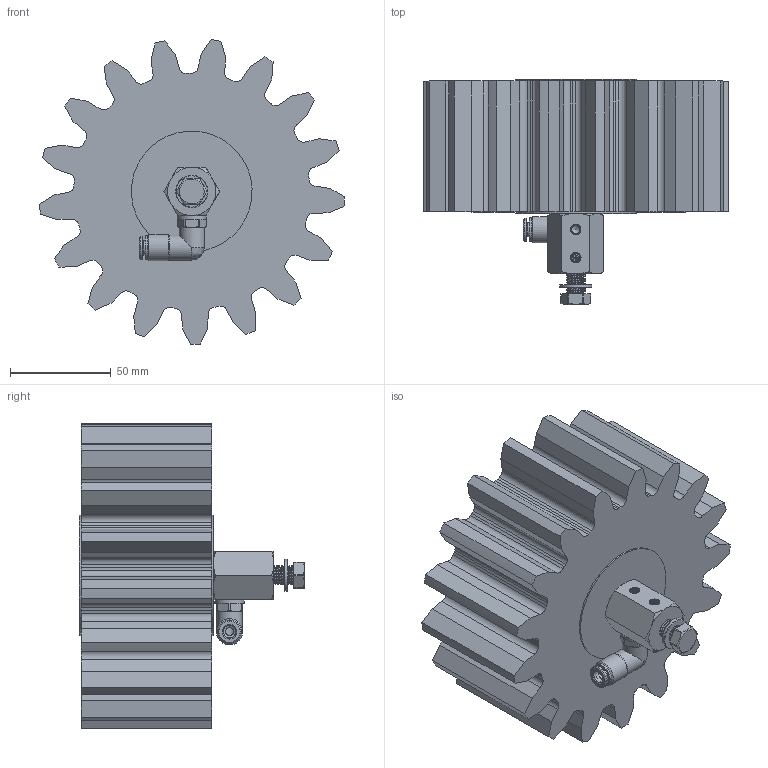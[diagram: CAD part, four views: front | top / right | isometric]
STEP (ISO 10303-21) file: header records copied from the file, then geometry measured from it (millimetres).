
FILE_DESCRIPTION (( 'STEP AP214' ), '1' );
FILE_NAME ('012_13_08_65_17BZ.STEP', '2026-04-08T10:26:29', ( '' ), ( '' ), 'SwSTEP 2.0', 'SolidWorks 2022', '' );
FILE_SCHEMA (( 'AUTOMOTIVE_DESIGN' ));
Length unit declared in the file: millimetre
Products named in the file (13): Scheibe_hinten_winklige Achse_groß; 12012_06_01_Scheibe-CRS-VA_60.SLDASM; H202242_HDS022_6_M10X1_08.05.17(1); 012_06_Senkschraube; U_Scheibe_8,4; Schmierzahnrad_08_65_17G; 012_13b_02_winklige_Achse_M10_1; RIVOLUZIONE_0_2; DR6-C_HDX_25.07.16_1; Schraube_M8_20; OR 7.2X1.9_1; RH202242; 012_13_08_65_17BZ
Assembly tree (12 placements, depth 3):
  012_13_08_65_17BZ
    012_13b_02_winklige_Achse_M10_1
    Schraube_M8_20
    U_Scheibe_8,4
    H202242_HDS022_6_M10X1_08.05.17(1)
      OR 7.2X1.9_1
      RH202242
      DR6-C_HDX_25.07.16_1
      RIVOLUZIONE_0_2
    12012_06_01_Scheibe-CRS-VA_60.SLDASM
    Scheibe_hinten_winklige Achse_groß
    012_06_Senkschraube
    Schmierzahnrad_08_65_17G
Bounding box: 151.68 x 111.9 x 151.38 mm (x, y, z)
Volume: 942812.7 mm3; surface area: 104939.6 mm2
Topology: 11 solids, 11 shells, 729 faces, 1985 edges, 1315 vertices
Faces by surface type: plane 379, bspline 184, cylinder 106, cone 57, torus 3
Full cylindrical faces by diameter (mm): 4 x3, 6 x1, 6.2 x1, 6.3 x1, 6.5 x1, 6.6 x1, 7.2 x1, 8.4 x1, 8.5 x1, 9 x10, 9.9 x1, 10 x2, 10.1 x2, 10.3 x1, 11.5 x1, 11.7 x1, 12.5 x2, 13 x1, 14.5 x1, 16 x1, 60 x2
Entity records: 48167 total; most frequent: CARTESIAN_POINT 30642, ORIENTED_EDGE 3668, DIRECTION 2683, EDGE_CURVE 1834, VERTEX_POINT 1249, VECTOR 1079, LINE 1079, EDGE_LOOP 851
